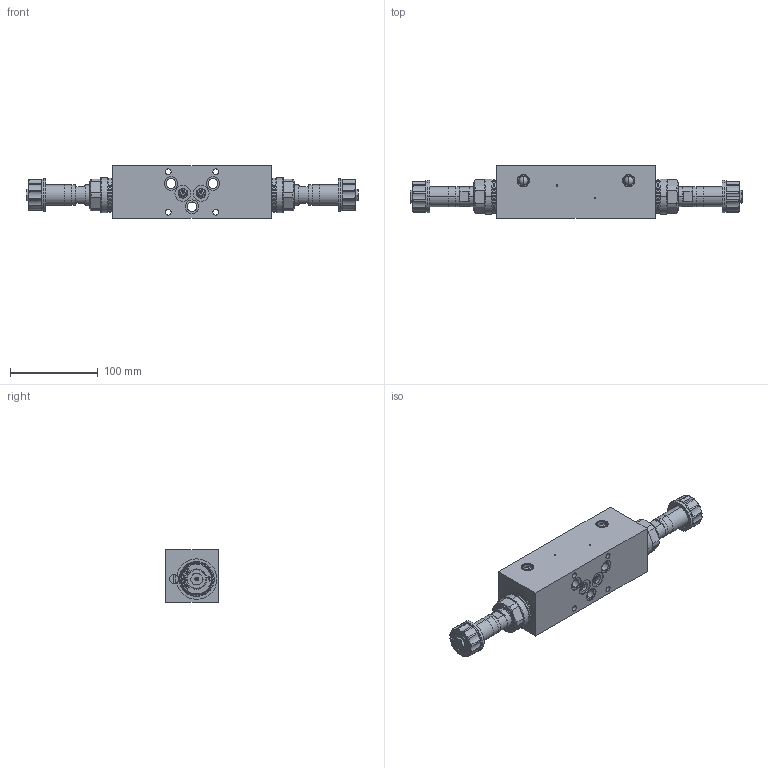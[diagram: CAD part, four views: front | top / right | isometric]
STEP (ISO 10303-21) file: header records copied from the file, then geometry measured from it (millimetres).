
FILE_DESCRIPTION (( 'STEP AP214' ), '1' );
FILE_NAME ('DNPSA10-AB.STEP', '2017-04-19T10:53:55', ( '' ), ( '' ), 'SwSTEP 2.0', 'SolidWorks 2016', '' );
FILE_SCHEMA (( 'AUTOMOTIVE_DESIGN' ));
Length unit declared in the file: millimetre
Products named in the file (1): DNPSA10-AB
Bounding box: 377.8 x 59.5 x 60 mm (x, y, z)
Volume: 741108.6 mm3; surface area: 102125.2 mm2
Topology: 5 solids, 9 shells, 908 faces, 2368 edges, 1521 vertices
Faces by surface type: plane 380, cylinder 266, cone 166, torus 56, bspline 32, sphere 8
Entity records: 40533 total; most frequent: CARTESIAN_POINT 8732, ORIENTED_EDGE 4720, DIRECTION 4490, EDGE_CURVE 2360, AXIS2_PLACEMENT_3D 1711, VERTEX_POINT 1521, LINE 1068, VECTOR 1068
